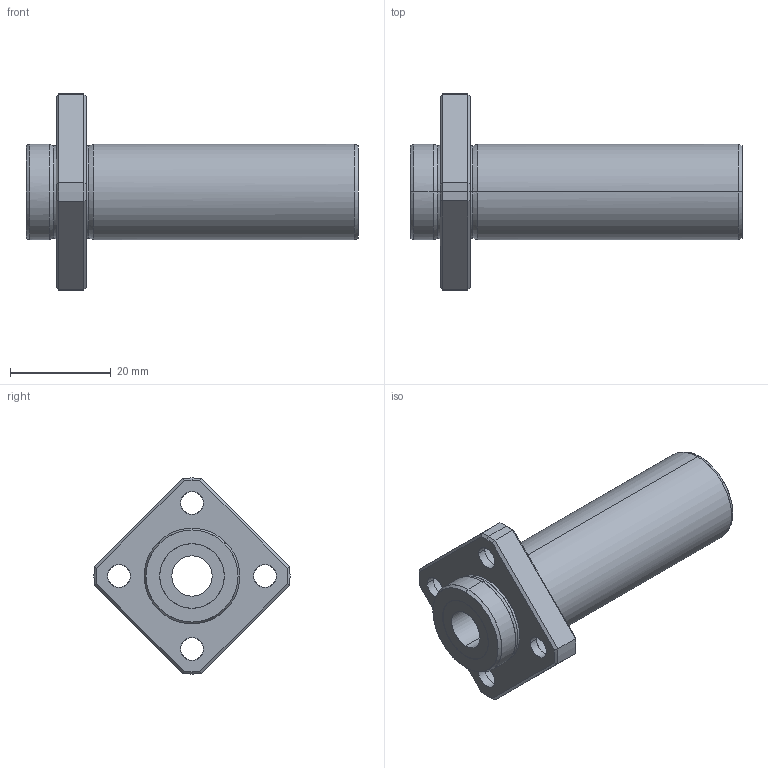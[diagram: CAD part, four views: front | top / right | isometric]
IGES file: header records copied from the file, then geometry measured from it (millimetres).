
Global section: file name: No Iges File Name specified; native system: AutoDesk Inventor R10; preprocessor: AutoDesk Inventor Iges Exporter R10; author: No Author specified; organization: No Organization specified; date: 20101211.163522; units: millimetre
Bounding box: 66 x 39 x 39 mm (x, y, z)
Surface area: 7934.1 mm2 (no closed solid volume)
Topology: 0 solids, 0 shells, 78 faces, 472 edges, 472 vertices
Faces by surface type: bspline 78
